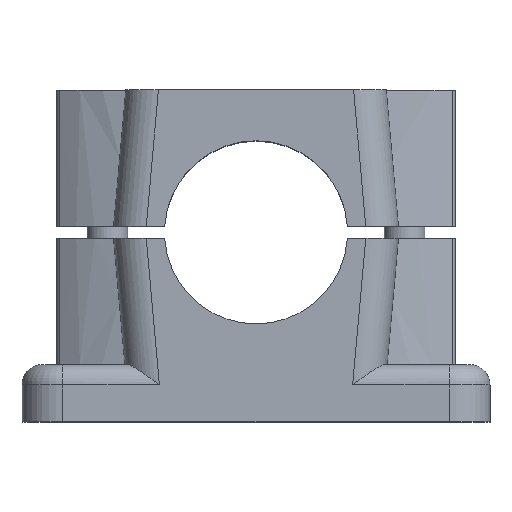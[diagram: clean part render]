
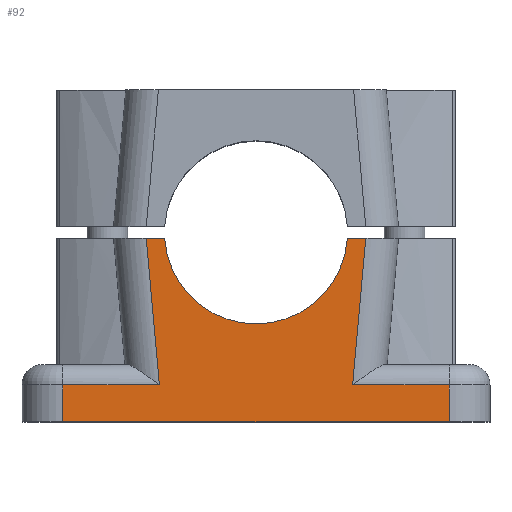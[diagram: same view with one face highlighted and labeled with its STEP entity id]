
A CAD part, top view. The second image highlights one B-rep face of the part: STEP entity #92.
In plain terms, the highlighted planar face has unit normal (0, 0, 1).
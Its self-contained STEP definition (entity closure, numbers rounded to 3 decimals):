
#92 = ADVANCED_FACE( '', ( #339 ), #340, .T. );
#339 = FACE_OUTER_BOUND( '', #839, .T. );
#340 = PLANE( '', #840 );
#839 = EDGE_LOOP( '', ( #1453, #1454, #1455, #1456, #1457, #1458, #1459, #1460, #1461, #1462 ) );
#840 = AXIS2_PLACEMENT_3D( '', #1463, #1464, #1465 );
#1453 = ORIENTED_EDGE( '', *, *, #3200, .T. );
#1454 = ORIENTED_EDGE( '', *, *, #3201, .T. );
#1455 = ORIENTED_EDGE( '', *, *, #3202, .T. );
#1456 = ORIENTED_EDGE( '', *, *, #3203, .F. );
#1457 = ORIENTED_EDGE( '', *, *, #3204, .T. );
#1458 = ORIENTED_EDGE( '', *, *, #3205, .T. );
#1459 = ORIENTED_EDGE( '', *, *, #3171, .F. );
#1460 = ORIENTED_EDGE( '', *, *, #3206, .F. );
#1461 = ORIENTED_EDGE( '', *, *, #3120, .T. );
#1462 = ORIENTED_EDGE( '', *, *, #3207, .T. );
#1463 = CARTESIAN_POINT( '', ( 0., 0., 38. ) );
#1464 = DIRECTION( '', ( 0., 0., 1. ) );
#1465 = DIRECTION( '', ( 1., 0., 0. ) );
#3120 = EDGE_CURVE( '', #3701, #3699, #3702, .T. );
#3171 = EDGE_CURVE( '', #3791, #3779, #3793, .T. );
#3200 = EDGE_CURVE( '', #3850, #3851, #3852, .T. );
#3201 = EDGE_CURVE( '', #3851, #3853, #3854, .F. );
#3202 = EDGE_CURVE( '', #3853, #3855, #3856, .T. );
#3203 = EDGE_CURVE( '', #3857, #3855, #3858, .T. );
#3204 = EDGE_CURVE( '', #3857, #3859, #3860, .T. );
#3205 = EDGE_CURVE( '', #3859, #3779, #3861, .T. );
#3206 = EDGE_CURVE( '', #3701, #3791, #3862, .T. );
#3207 = EDGE_CURVE( '', #3699, #3850, #3863, .T. );
#3699 = VERTEX_POINT( '', #4702 );
#3701 = VERTEX_POINT( '', #4725 );
#3702 = LINE( '', #4726, #4727 );
#3779 = VERTEX_POINT( '', #4822 );
#3791 = VERTEX_POINT( '', #4837 );
#3793 = LINE( '', #4839, #4840 );
#3850 = VERTEX_POINT( '', #4909 );
#3851 = VERTEX_POINT( '', #4910 );
#3852 = LINE( '', #4911, #4912 );
#3853 = VERTEX_POINT( '', #4913 );
#3854 = CIRCLE( '', #4914, 22.5 );
#3855 = VERTEX_POINT( '', #4915 );
#3856 = LINE( '', #4916, #4917 );
#3857 = VERTEX_POINT( '', #4918 );
#3858 = LINE( '', #4919, #4920 );
#3859 = VERTEX_POINT( '', #4921 );
#3860 = LINE( '', #4922, #4923 );
#3861 = LINE( '', #4924, #4925 );
#3862 = LINE( '', #4926, #4927 );
#3863 = LINE( '', #4928, #4929 );
#4702 = CARTESIAN_POINT( '', ( 23.749, -37.5, 38. ) );
#4725 = CARTESIAN_POINT( '', ( 47.5, -37.5, 38. ) );
#4726 = CARTESIAN_POINT( '', ( 47.5, -37.5, 38. ) );
#4727 = VECTOR( '', #6059, 1000. );
#4822 = CARTESIAN_POINT( '', ( -47.5, -46.5, 38. ) );
#4837 = CARTESIAN_POINT( '', ( 47.5, -46.5, 38. ) );
#4839 = CARTESIAN_POINT( '', ( 47.5, -46.5, 38. ) );
#4840 = VECTOR( '', #6168, 1000. );
#4909 = CARTESIAN_POINT( '', ( 26.973, -1.5, 38. ) );
#4910 = CARTESIAN_POINT( '', ( 22.45, -1.5, 38. ) );
#4911 = CARTESIAN_POINT( '', ( 0., -1.5, 38. ) );
#4912 = VECTOR( '', #6229, 1000. );
#4913 = CARTESIAN_POINT( '', ( -22.45, -1.5, 38. ) );
#4914 = AXIS2_PLACEMENT_3D( '', #6230, #6231, #6232 );
#4915 = CARTESIAN_POINT( '', ( -26.973, -1.5, 38. ) );
#4916 = CARTESIAN_POINT( '', ( 0., -1.5, 38. ) );
#4917 = VECTOR( '', #6233, 1000. );
#4918 = CARTESIAN_POINT( '', ( -23.749, -37.5, 38. ) );
#4919 = CARTESIAN_POINT( '', ( -23.693, -38.131, 38. ) );
#4920 = VECTOR( '', #6234, 1000. );
#4921 = CARTESIAN_POINT( '', ( -47.5, -37.5, 38. ) );
#4922 = CARTESIAN_POINT( '', ( 47.5, -37.5, 38. ) );
#4923 = VECTOR( '', #6235, 1000. );
#4924 = CARTESIAN_POINT( '', ( -47.5, -37.5, 38. ) );
#4925 = VECTOR( '', #6236, 1000. );
#4926 = CARTESIAN_POINT( '', ( 47.5, -37.5, 38. ) );
#4927 = VECTOR( '', #6237, 1000. );
#4928 = CARTESIAN_POINT( '', ( 23.693, -38.131, 38. ) );
#4929 = VECTOR( '', #6238, 1000. );
#6059 = DIRECTION( '', ( -1., 0., 0. ) );
#6168 = DIRECTION( '', ( -1., 0., 0. ) );
#6229 = DIRECTION( '', ( -1., 0., 0. ) );
#6230 = CARTESIAN_POINT( '', ( 0., 0., 38. ) );
#6231 = DIRECTION( '', ( 0., 0., 1. ) );
#6232 = DIRECTION( '', ( 1., 0., 0. ) );
#6233 = DIRECTION( '', ( -1., 0., 0. ) );
#6234 = DIRECTION( '', ( -0.089, 0.996, 0. ) );
#6235 = DIRECTION( '', ( -1., 0., 0. ) );
#6236 = DIRECTION( '', ( 0., -1., 0. ) );
#6237 = DIRECTION( '', ( 0., -1., 0. ) );
#6238 = DIRECTION( '', ( 0.089, 0.996, 0. ) );
